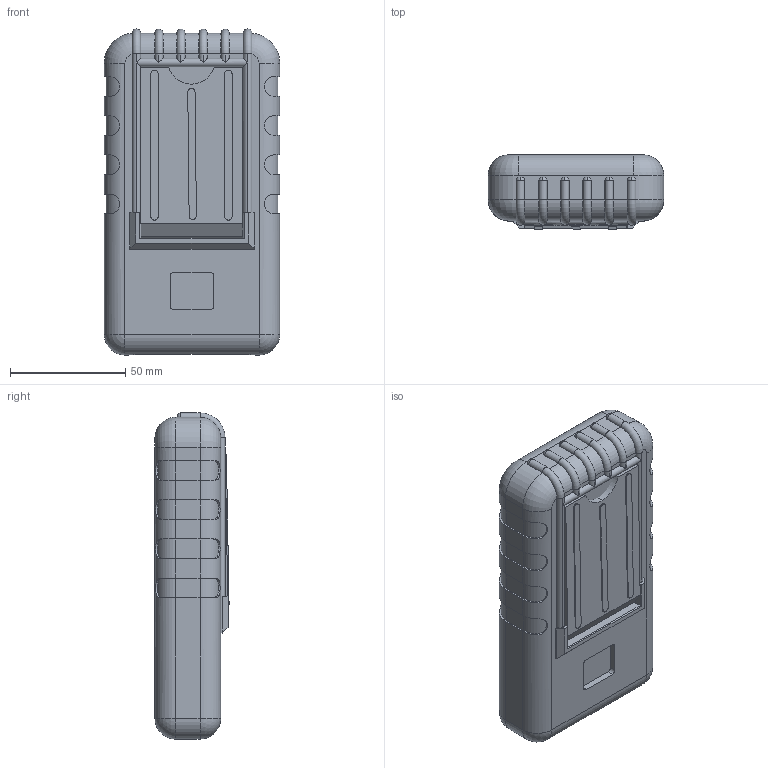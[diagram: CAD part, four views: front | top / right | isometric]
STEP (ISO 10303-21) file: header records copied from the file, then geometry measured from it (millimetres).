
FILE_DESCRIPTION (( 'STEP AP214' ), '1' );
FILE_NAME ('55-12-AC-R-BO.STEP', '2020-10-02T21:34:46', ( 'Rudy' ), ( '' ), 'SwSTEP 2.0', 'SolidWorks 2014', '' );
FILE_SCHEMA (( 'AUTOMOTIVE_DESIGN' ));
Length unit declared in the file: millimetre
Products named in the file (9): 55 Stand; 55 RBT; 55 PCB 2AA-9V ; 55 AC Door; 55 Panel Shallow; 55 Top Shallow; 55 Bottom AC; 55-12-AC-R-BO; 55 RBT ASSY
Assembly tree (8 placements, depth 3):
  55-12-AC-R-BO
    55 Bottom AC
    55 Top Shallow
    55 Panel Shallow
    55 AC Door
    55 PCB 2AA-9V 
    55 RBT ASSY
      55 RBT
      55 Stand
Bounding box: 76.2 x 32.17 x 141.55 mm (x, y, z)
Volume: 128963.2 mm3; surface area: 113457.5 mm2
Topology: 15 solids, 15 shells, 871 faces, 2308 edges, 1483 vertices
Faces by surface type: plane 408, cylinder 293, torus 69, bspline 69, cone 28, sphere 4
Entity records: 36606 total; most frequent: CARTESIAN_POINT 14916, ORIENTED_EDGE 4608, DIRECTION 4279, EDGE_CURVE 2304, AXIS2_PLACEMENT_3D 1534, VERTEX_POINT 1483, LINE 1211, VECTOR 1211
